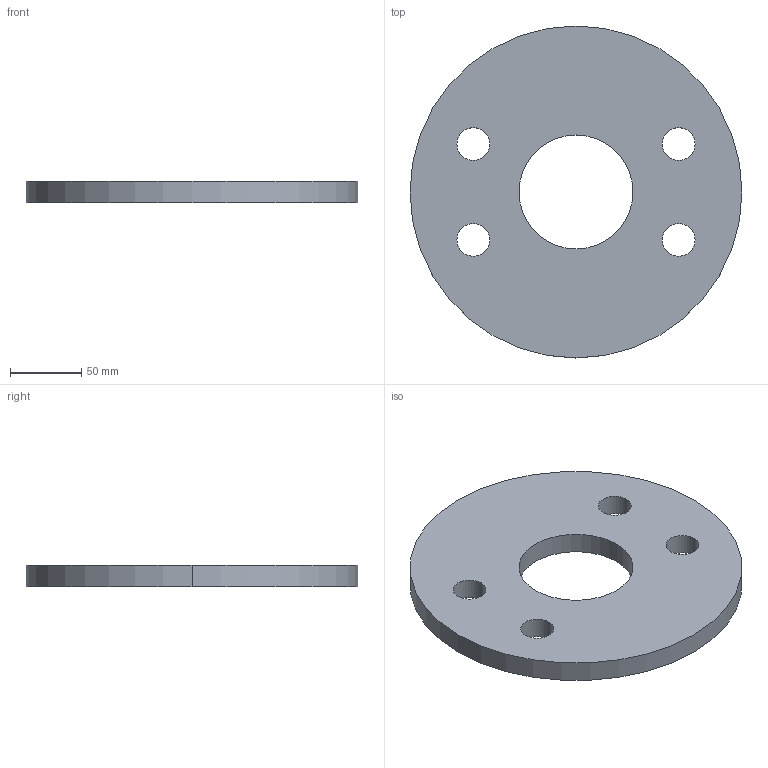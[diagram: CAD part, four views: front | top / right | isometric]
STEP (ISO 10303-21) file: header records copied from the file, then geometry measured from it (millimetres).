
FILE_DESCRIPTION (( 'STEP AP203' ), '1' );
FILE_NAME ('Kreissscheibe M20.STEP', '2018-02-22T05:50:46', ( 'install' ), ( 'Hewlett-Packard Company' ), 'SwSTEP 2.0', 'SolidWorks 2017', '' );
FILE_SCHEMA (( 'CONFIG_CONTROL_DESIGN' ));
Length unit declared in the file: millimetre
Products named in the file (1): Kreissscheibe M20
Bounding box: 233 x 233 x 15 mm (x, y, z)
Volume: 539250.5 mm3; surface area: 90985.2 mm2
Topology: 1 solids, 1 shells, 14 faces, 36 edges, 24 vertices
Faces by surface type: cylinder 12, plane 2
Entity records: 541 total; most frequent: DIRECTION 90, CARTESIAN_POINT 75, ORIENTED_EDGE 72, AXIS2_PLACEMENT_3D 39, EDGE_CURVE 36, VERTEX_POINT 24, CIRCLE 24, EDGE_LOOP 24
